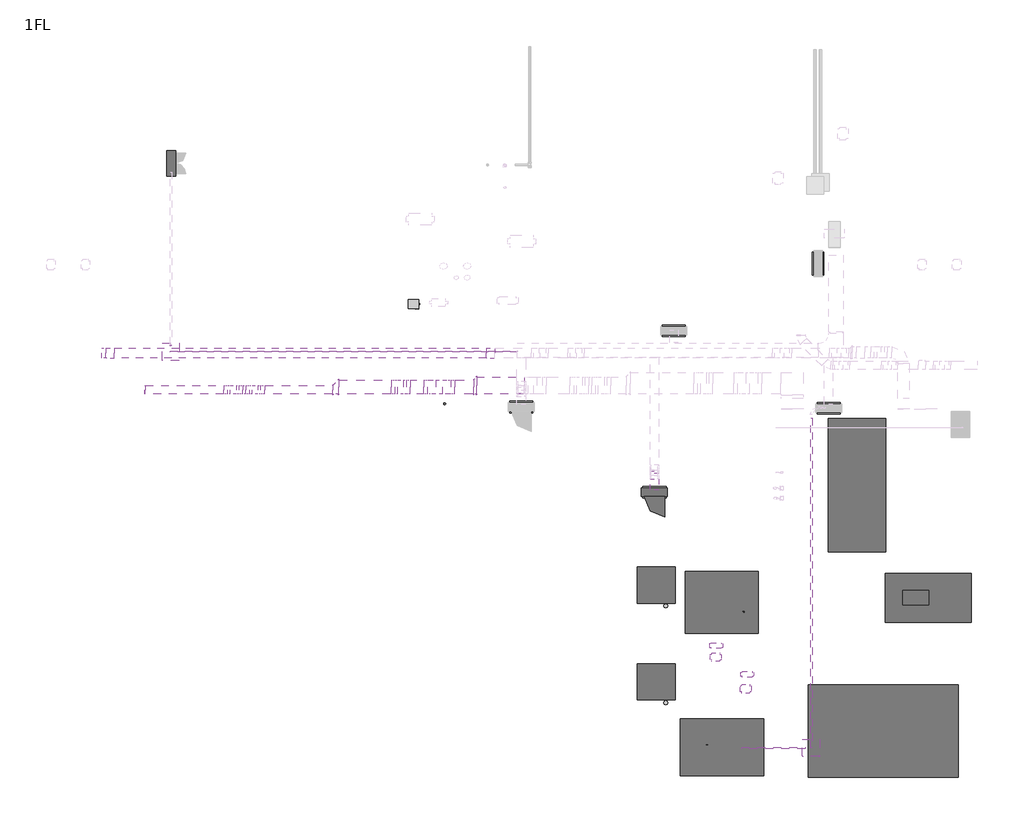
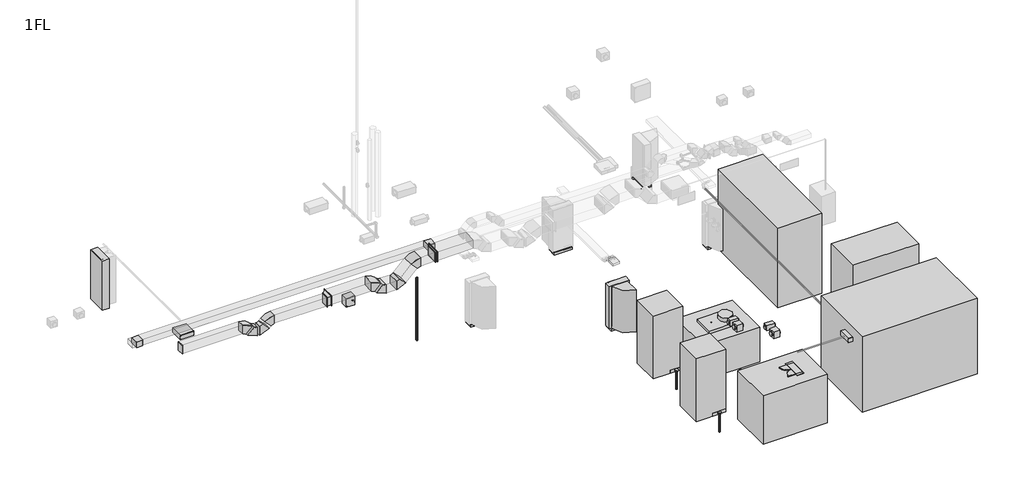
# One storey, part 1 of 3: 23 proxies, 13 duct fittings, 13 duct segments, 7 unitary equipment elements, 6 cable carrier segments, 4 pipe segments, 4 sanitary terminals, 2 electric distribution boards, 2 pipe fittings.
"""IFC4 building model written with IfcOpenShell, lengths in millimetres."""

from ifc_helpers import new_model, si_unit, point, frame, frame_2d, origin, origin_with_axes, place, context, project, spatial, polyline, circle_curve, trimmed, segment, composite_curve, outline, extrude, transform, mapped, element, save
from components import specialty_equipment_491e8242, specialty_equipment_af38feda, specialty_equipment_88b311e8, specialty_equipment_fa19b4a0, specialty_equipment_576017ca, specialty_equipment_9e616ede, specialty_equipment_b1b21cb5, specialty_equipment_777d3eea, specialty_equipment_a4dc3d81, specialty_equipment_71b71c24, specialty_equipment_7916e3ce, specialty_equipment_bdb20116, specialty_equipment_edc2f15a, electrical_fixtures_92a770d1, common_d19d567b, common_31d43736, common_1_0_w_334f4966, common_1_0_w_a1188d46, common_45_deg_ca4ca436, common_45_deg_28c74dc1, electric_distribution_board_1ec212f5, electric_distribution_board_7d68dc5e, common_ca5108ef, sanitary_terminal_b2eb0a7e, sanitary_terminal_007ee198, sanitary_terminal_f606fff4, sanitary_terminal_20l_5d2d8bf7, unitary_equipment_1_1_2_150m3_h_d594a744, unitary_equipment_2_300m3_h_3dfff21d, unitary_equipment_103_150l_min0_75kw18_5m_9d0cca60, unitary_equipment_7_1kw_d5a9fbea

model = new_model("IFC4")

# Units and contexts
model_context = context("Model", 3, world=origin())
ifc_project = project(units=[si_unit("LENGTHUNIT", "METRE", prefix="MILLI")], contexts=[model_context])

# Site, building, storey
site = spatial("IfcSite", under=ifc_project)
building = spatial("IfcBuilding", under=site)
storey = spatial("IfcBuildingStorey", under=building, Name="1FL", Elevation=0.0)

# Proxies
placement = place(None, origin())
specialty_equipment_shape = specialty_equipment_491e8242(model_context)
element("IfcBuildingElementProxy", 1, Name="機械基礎(電気) : 機械基礎(電気)", ObjectType="機械基礎(電気) : 機械基礎(電気)", at=placement, inside=storey, context=model_context, shape_type="MappedRepresentation", body=[
    mapped(specialty_equipment_shape, transform((26900.0, 18231.8647061, 0.0), x_axis=(0.0, 1.0, 0.0), y_axis=(-1.0, 0.0, 0.0), z_axis=(0.0, 0.0, 1.0))),
])
element("IfcBuildingElementProxy", 2, Name="機械基礎(電気) : 機械基礎(電気)", ObjectType="機械基礎(電気) : 機械基礎(電気)", at=placement, inside=storey, context=model_context, shape_type="MappedRepresentation", body=[
    mapped(specialty_equipment_shape, transform((16608.843656, 13256.501765, 0.0), x_axis=(1.0, 0.0, 0.0), y_axis=(0.0, 1.0, 0.0), z_axis=(0.0, 0.0, 1.0))),
])
element("IfcBuildingElementProxy", 3, Name="機械基礎(電気) : 機械基礎(電気)", ObjectType="機械基礎(電気) : 機械基礎(電気)", at=placement, inside=storey, context=model_context, shape_type="MappedRepresentation", body=[
    mapped(specialty_equipment_shape, transform((21893.33973, 15895.0, 0.0), x_axis=(-1.0, 0.0, 0.0), y_axis=(0.0, -1.0, 0.0), z_axis=(0.0, 0.0, 1.0))),
])
element("IfcBuildingElementProxy", 4, Name="機械基礎(電気) : 機械基礎(電気)", ObjectType="機械基礎(電気) : 機械基礎(電気)", at=placement, inside=storey, context=model_context, shape_type="MappedRepresentation", body=[
    mapped(specialty_equipment_shape, transform((27260.0, 13215.0, 0.0), x_axis=(1.0, 0.0, 0.0), y_axis=(0.0, 1.0, 0.0), z_axis=(0.0, 0.0, 1.0))),
])
element("IfcBuildingElementProxy", 5, Name="機械基礎(電気) : 機械基礎(電気)", ObjectType="機械基礎(電気) : 機械基礎(電気)", at=placement, inside=storey, context=model_context, shape_type="MappedRepresentation", body=[
    mapped(specialty_equipment_shape, transform((21223.8968144, 10294.6679092, 0.0), x_axis=(1.0, 0.0, 0.0), y_axis=(0.0, 1.0, 0.0), z_axis=(0.0, 0.0, 1.0))),
])
specialty_equipment_2_shape = specialty_equipment_af38feda(model_context)
element("IfcBuildingElementProxy", 6, Name="機械基礎(衛生) : 機械基礎(衛生)", ObjectType="機械基礎(衛生) : 機械基礎(衛生)", at=placement, inside=storey, context=model_context, shape_type="MappedRepresentation", body=[
    mapped(specialty_equipment_2_shape, transform((23763.4995659, 1184.2388571, 0.0), x_axis=(-1.0, 0.0, 0.0), y_axis=(0.0, -1.0, 0.0), z_axis=(0.0, 0.0, 1.0))),
])
specialty_equipment_3_shape = specialty_equipment_88b311e8(model_context)
element("IfcBuildingElementProxy", 7, Name="サービススペース(衛生) : サービススペース(衛生)", ObjectType="サービススペース(衛生) : サービススペース(衛生)", at=placement, inside=storey, context=model_context, shape_type="MappedRepresentation", body=[
    mapped(specialty_equipment_3_shape, transform((29155.0240303, 2020.0, 1800.0), x_axis=(0.0, 1.0, 0.0), y_axis=(-1.0, 0.0, 0.0), z_axis=(0.0, 0.0, 1.0))),
])
specialty_equipment_4_shape = specialty_equipment_fa19b4a0(model_context)
element("IfcBuildingElementProxy", 8, Name="サービススペース(衛生) : サービススペース(衛生)", ObjectType="サービススペース(衛生) : サービススペース(衛生)", at=placement, inside=storey, context=model_context, shape_type="MappedRepresentation", body=[
    mapped(specialty_equipment_4_shape, transform((23563.4995659, 1449.2388571, 1156.0), x_axis=(-1.0, 0.0, 0.0), y_axis=(0.0, -1.0, 0.0), z_axis=(0.0, 0.0, 1.0))),
])
specialty_equipment_5_shape = specialty_equipment_576017ca(model_context)
element("IfcBuildingElementProxy", 9, Name="機械基礎 : 機械基礎", ObjectType="機械基礎 : 機械基礎", at=placement, inside=storey, context=model_context, shape_type="MappedRepresentation", body=[
    mapped(specialty_equipment_5_shape, transform((28500.0, 10740.0, 0.0), x_axis=(0.0, -1.0, 0.0), y_axis=(1.0, 0.0, 0.0), z_axis=(0.0, 0.0, 1.0))),
])
specialty_equipment_6_shape = specialty_equipment_9e616ede(model_context)
element("IfcBuildingElementProxy", 10, Name="サービススペース : サービススペース", ObjectType="サービススペース : サービススペース", at=placement, inside=storey, context=model_context, shape_type="MappedRepresentation", body=[
    mapped(specialty_equipment_6_shape, transform((28250.0, 10540.0, 1901.0), x_axis=(0.0, -1.0, 0.0), y_axis=(1.0, 0.0, 0.0), z_axis=(0.0, 0.0, 1.0))),
])
specialty_equipment_7_shape = specialty_equipment_b1b21cb5(model_context)
element("IfcBuildingElementProxy", 11, Name="機械基礎 : 機械基礎", ObjectType="機械基礎 : 機械基礎", at=placement, inside=storey, context=model_context, shape_type="MappedRepresentation", body=[
    mapped(specialty_equipment_7_shape, transform((21660.0, 6902.5052239, 0.0), x_axis=(0.0, -1.0, 0.0), y_axis=(1.0, 0.0, 0.0), z_axis=(0.0, 0.0, 1.0))),
])
element("IfcBuildingElementProxy", 12, Name="機械基礎 : 機械基礎", ObjectType="機械基礎 : 機械基礎", at=placement, inside=storey, context=model_context, shape_type="MappedRepresentation", body=[
    mapped(specialty_equipment_7_shape, transform((21660.0, 3547.3052239, 0.0), x_axis=(0.0, -1.0, 0.0), y_axis=(1.0, 0.0, 0.0), z_axis=(0.0, 0.0, 1.0))),
])
specialty_equipment_8_shape = specialty_equipment_777d3eea(model_context)
element("IfcBuildingElementProxy", 13, Name="サービススペース : サービススペース", ObjectType="サービススペース : サービススペース", at=placement, inside=storey, context=model_context, shape_type="MappedRepresentation", body=[
    mapped(specialty_equipment_8_shape, transform((21285.0, 7077.5052239, 1500.0), x_axis=(0.0, -1.0, 0.0), y_axis=(1.0, 0.0, 0.0), z_axis=(0.0, 0.0, 1.0))),
])
element("IfcBuildingElementProxy", 14, Name="サービススペース : サービススペース", ObjectType="サービススペース : サービススペース", at=placement, inside=storey, context=model_context, shape_type="MappedRepresentation", body=[
    mapped(specialty_equipment_8_shape, transform((21285.0, 3722.3052239, 1500.0), x_axis=(0.0, -1.0, 0.0), y_axis=(1.0, 0.0, 0.0), z_axis=(0.0, 0.0, 1.0))),
])
specialty_equipment_9_shape = specialty_equipment_a4dc3d81(model_context)
element("IfcBuildingElementProxy", 15, Name="サービススペース : サービススペース(電気)", ObjectType="サービススペース : サービススペース(電気)", at=placement, inside=storey, context=model_context, shape_type="MappedRepresentation", body=[
    mapped(specialty_equipment_9_shape, transform((4475.0, 21705.7994846, 1175.0), x_axis=(0.0, 1.0, 0.0), y_axis=(-1.0, 0.0, 0.0), z_axis=(0.0, 0.0, 1.0))),
])
element("IfcBuildingElementProxy", 16, Name="サービススペース : サービススペース(電気)", ObjectType="サービススペース : サービススペース(電気)", at=placement, inside=storey, context=model_context, shape_type="MappedRepresentation", body=[
    mapped(specialty_equipment_9_shape, transform((24088.962752, 1426.2388571, 1175.0), x_axis=(0.0, -1.0, 0.0), y_axis=(1.0, 0.0, 0.0), z_axis=(0.0, 0.0, 1.0))),
])
element("IfcBuildingElementProxy", 17, Name="機械基礎 : 機械基礎(電気)", ObjectType="機械基礎 : 機械基礎(電気)", at=placement, inside=storey, context=model_context, shape_type="MappedRepresentation", body=[
    mapped(specialty_equipment_shape, transform((24088.962752, 1426.2388571, 0.0), x_axis=(0.0, -1.0, 0.0), y_axis=(1.0, 0.0, 0.0), z_axis=(0.0, 0.0, 1.0))),
])
specialty_equipment_10_shape = specialty_equipment_71b71c24(model_context)
element("IfcBuildingElementProxy", 18, Name="サービススペース : サービススペース", ObjectType="サービススペース : サービススペース", at=placement, inside=storey, context=model_context, shape_type="MappedRepresentation", body=[
    mapped(specialty_equipment_10_shape, transform((23547.6679829, 6475.0, 815.5), x_axis=(-1.0, 0.0, 0.0), y_axis=(0.0, -1.0, 0.0), z_axis=(0.0, 0.0, 1.0))),
])
specialty_equipment_11_shape = specialty_equipment_7916e3ce(model_context)
element("IfcBuildingElementProxy", 19, Name="機械基礎_下駄(衛生) : 機械基礎_下駄(衛生)", ObjectType="機械基礎_下駄(衛生) : 機械基礎_下駄(衛生)", at=placement, inside=storey, context=model_context, shape_type="MappedRepresentation", body=[
    mapped(specialty_equipment_11_shape, transform((30155.0240303, 2020.0, 0.0), x_axis=(0.0, 1.0, 0.0), y_axis=(-1.0, 0.0, 0.0), z_axis=(0.0, 0.0, 1.0))),
])
specialty_equipment_12_shape = specialty_equipment_bdb20116(model_context)
element("IfcBuildingElementProxy", 20, Name="サービススペース(衛生) : サービススペース(衛生)", ObjectType="サービススペース(衛生) : サービススペース(衛生)", at=placement, inside=storey, context=model_context, shape_type="MappedRepresentation", body=[
    mapped(specialty_equipment_12_shape, transform((30720.0, 6635.0, 1400.0), x_axis=(1.0, 0.0, 0.0), y_axis=(0.0, 1.0, 0.0), z_axis=(0.0, 0.0, 1.0))),
])
specialty_equipment_13_shape = specialty_equipment_edc2f15a(model_context)
element("IfcBuildingElementProxy", 21, Name="機械基礎(衛生) : 機械基礎(衛生)", ObjectType="機械基礎(衛生) : 機械基礎(衛生)", at=placement, inside=storey, context=model_context, shape_type="MappedRepresentation", body=[
    mapped(specialty_equipment_13_shape, transform((30330.0, 6890.0, 0.0), x_axis=(1.0, 0.0, 0.0), y_axis=(0.0, 1.0, 0.0), z_axis=(0.0, 0.0, 1.0))),
])
electrical_fixtures_shape = electrical_fixtures_92a770d1(model_context)
element("IfcBuildingElementProxy", 22, Name="20206_プルボックス_大_強電用 : 幹線設備", ObjectType="20206_プルボックス_大_強電用 : 幹線設備", at=placement, inside=storey, context=model_context, shape_type="MappedRepresentation", body=[
    mapped(electrical_fixtures_shape, transform((26645.2150478, 1431.9770061, 2950.0), x_axis=(1.0, 0.0, 0.0), y_axis=(0.0, 1.0, 0.0), z_axis=(0.0, 0.0, 1.0))),
])
element("IfcBuildingElementProxy", 23, Name="20206_プルボックス_大_強電用 : 幹線設備", ObjectType="20206_プルボックス_大_強電用 : 幹線設備", at=placement, inside=storey, context=model_context, shape_type="MappedRepresentation", body=[
    mapped(electrical_fixtures_shape, transform((4455.8700993, 15168.0714841, 2530.0), x_axis=(1.0, 0.0, 0.0), y_axis=(0.0, 1.0, 0.0), z_axis=(0.0, 0.0, 1.0))),
])

# Cable carrier segments
element("IfcCableCarrierSegment", 24, ObjectType="03 強電_低圧", at=placement, inside=storey, context=model_context, shape_type="SweptSolid", body=[
    extrude(outline(polyline([(-150.0, 108.113883), (-150.0, 208.113883), (150.0, 208.113883), (150.0, 108.113883), (-150.0, 108.113883)])), frame((21219.8202836, 10872.3105534, 2677.3110529), z_axis=(0.0, -0.5939062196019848, 0.8045342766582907), x_axis=(1.0, 0.0, 0.0)), (0.0, 0.0, 1.0), 9.4070041),
])
element("IfcCableCarrierSegment", 25, ObjectType="03 強電_低圧", at=placement, inside=storey, context=model_context, shape_type="SweptSolid", body=[
    extrude(outline(polyline([(0.0, -300.0), (0.0, 0.0), (383.3022574, 0.0), (383.3022574, -300.0), (0.0, -300.0)])), frame((21369.8202836, 10753.7844174, 2850.0), z_axis=(0.0, -1.7402614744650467e-12, 1.0), x_axis=(0.0, -1.0, -1.7402614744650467e-12)), (0.0, 0.0, 1.0), 100.0),
])
element("IfcCableCarrierSegment", 26, ObjectType="021_ねじなし電線管_E_強電", at=placement, inside=storey, context=model_context, shape_type="SweptSolid", body=[
    extrude(outline(composite_curve([segment(trimmed(circle_curve(frame_2d((3060.0, 26660.0)), 25.4), [point((3060.0, 26634.6))], [point((3034.6, 26660.0))], False, "CARTESIAN"), True, "CONTINUOUS"), segment(trimmed(circle_curve(frame_2d((3060.0, 26660.0)), 25.4), [point((3034.6, 26660.0))], [point((3060.0, 26685.4))], False, "CARTESIAN"), True, "CONTINUOUS"), segment(trimmed(circle_curve(frame_2d((3060.0, 26660.0)), 25.4), [point((3060.0, 26685.4))], [point((3085.4, 26660.0))], False, "CARTESIAN"), True, "CONTINUOUS"), segment(trimmed(circle_curve(frame_2d((3060.0, 26660.0)), 25.4), [point((3085.4, 26660.0))], [point((3060.0, 26634.6))], False, "CARTESIAN"), True, "CONTINUOUS")], self_intersect=False)), frame((0.0, 1433.905522, 0.0), z_axis=(0.0, 1.0, 0.0), x_axis=(0.0, 0.0, 1.0)), (0.0, 0.0, 1.0), 11436.8326414),
])
element("IfcCableCarrierSegment", 27, ObjectType="021_ねじなし電線管_E_強電", at=placement, inside=storey, context=model_context, shape_type="SweptSolid", body=[
    extrude(outline(composite_curve([segment(trimmed(circle_curve(frame_2d((1433.905522, 3060.0)), 25.4), [point((1408.505522, 3060.0))], [point((1433.905522, 3085.4))], False, "CARTESIAN"), True, "CONTINUOUS"), segment(trimmed(circle_curve(frame_2d((1433.905522, 3060.0)), 25.4), [point((1433.905522, 3085.4))], [point((1459.305522, 3060.0))], False, "CARTESIAN"), True, "CONTINUOUS"), segment(trimmed(circle_curve(frame_2d((1433.905522, 3060.0)), 25.4), [point((1459.305522, 3060.0))], [point((1433.905522, 3034.6))], False, "CARTESIAN"), True, "CONTINUOUS"), segment(trimmed(circle_curve(frame_2d((1433.905522, 3060.0)), 25.4), [point((1433.905522, 3034.6))], [point((1408.505522, 3060.0))], False, "CARTESIAN"), True, "CONTINUOUS")], self_intersect=False)), frame((24242.2514322, 0.0, 0.0), z_axis=(1.0, 0.0, 0.0), x_axis=(0.0, 1.0, 0.0)), (0.0, 0.0, 1.0), 2200.0),
])
element("IfcCableCarrierSegment", 28, ObjectType="021_ねじなし電線管_E_強電", at=placement, inside=storey, context=model_context, shape_type="SweptSolid", body=[
    extrude(outline(composite_curve([segment(trimmed(circle_curve(frame_2d((15180.0, 2650.0)), 25.4), [point((15205.4, 2650.0))], [point((15180.0, 2624.6))], False, "CARTESIAN"), True, "CONTINUOUS"), segment(trimmed(circle_curve(frame_2d((15180.0, 2650.0)), 25.4), [point((15180.0, 2624.6))], [point((15154.6, 2650.0))], False, "CARTESIAN"), True, "CONTINUOUS"), segment(trimmed(circle_curve(frame_2d((15180.0, 2650.0)), 25.4), [point((15154.6, 2650.0))], [point((15180.0, 2675.4))], False, "CARTESIAN"), True, "CONTINUOUS"), segment(trimmed(circle_curve(frame_2d((15180.0, 2650.0)), 25.4), [point((15180.0, 2675.4))], [point((15205.4, 2650.0))], False, "CARTESIAN"), True, "CONTINUOUS")], self_intersect=False)), frame((4443.7313084, 0.0, 0.0), z_axis=(1.0, 0.0, 0.0), x_axis=(0.0, 1.0, 0.0)), (0.0, 0.0, 1.0), 12026.0889751),
])
element("IfcCableCarrierSegment", 29, ObjectType="021_ねじなし電線管_E_強電", at=placement, inside=storey, context=model_context, shape_type="SweptSolid", body=[
    extrude(outline(composite_curve([segment(trimmed(circle_curve(frame_2d((4462.2728341, 15395.0)), 25.4), [point((4487.6728341, 15395.0))], [point((4462.2728341, 15369.6))], False, "CARTESIAN"), True, "CONTINUOUS"), segment(trimmed(circle_curve(frame_2d((4462.2728341, 15395.0)), 25.4), [point((4462.2728341, 15369.6))], [point((4436.8728341, 15395.0))], False, "CARTESIAN"), True, "CONTINUOUS"), segment(trimmed(circle_curve(frame_2d((4462.2728341, 15395.0)), 25.4), [point((4436.8728341, 15395.0))], [point((4462.2728341, 15420.4))], False, "CARTESIAN"), True, "CONTINUOUS"), segment(trimmed(circle_curve(frame_2d((4462.2728341, 15395.0)), 25.4), [point((4462.2728341, 15420.4))], [point((4487.6728341, 15395.0))], False, "CARTESIAN"), True, "CONTINUOUS")], self_intersect=False)), frame((0.0, 0.0, 2620.0), z_axis=(0.0, 0.0, 1.0), x_axis=(1.0, 0.0, 0.0)), (0.0, 0.0, 1.0), 36.2760938),
])

# Duct fittings
common_shape = common_d19d567b(model_context)
element("IfcDuctFitting", 30, ObjectType="081_角型エンドキャップ : Common", at=placement, inside=storey, context=model_context, shape_type="MappedRepresentation", body=[
    mapped(common_shape, transform((3580.0252532, 13850.0, 2975.0), x_axis=(-1.0, 0.0, 0.0), y_axis=(0.0, -1.0, 0.0), z_axis=(0.0, 0.0, 1.0))),
])
common_2_shape = common_31d43736(model_context)
element("IfcDuctFitting", 31, ObjectType="022_角形片側分岐 : Common", at=placement, inside=storey, context=model_context, shape_type="MappedRepresentation", body=[
    mapped(common_2_shape, transform((15534.375, 15130.0, 2925.0), x_axis=(1.0, 0.0, 0.0), y_axis=(0.0, 1.0, 0.0), z_axis=(0.0, 0.0, 1.0))),
])
element("IfcDuctFitting", 32, ObjectType="022_角形片側分岐 : Common", at=placement, inside=storey, context=model_context, shape_type="MappedRepresentation", body=[
    mapped(common_2_shape, transform((2354.375, 15130.0, 2925.0), x_axis=(1.0, 0.0, 0.0), y_axis=(0.0, 1.0, 0.0), z_axis=(0.0, 0.0, 1.0))),
])
common_1_0_w_shape = common_1_0_w_334f4966(model_context)
element("IfcDuctFitting", 33, ObjectType="011_角型エルボ - 半径 : Common 1.0 W", at=placement, inside=storey, context=model_context, shape_type="MappedRepresentation", body=[
    mapped(common_1_0_w_shape, transform((7215.6854249, 13850.0, 2650.0), x_axis=(1.0, 0.0, 0.0), y_axis=(0.0, 0.0, 1.0), z_axis=(0.0, -1.0, 0.0))),
])
element("IfcDuctFitting", 34, ObjectType="011_角型エルボ - 半径 : Common 1.0 W", at=placement, inside=storey, context=model_context, shape_type="MappedRepresentation", body=[
    mapped(common_1_0_w_shape, transform((6784.3145751, 13850.0, 2650.0), x_axis=(-1.0, 0.0, 0.0), y_axis=(0.0, 0.0, 1.0), z_axis=(0.0, 1.0, 0.0))),
])
element("IfcDuctFitting", 35, ObjectType="011_角型エルボ - 半径 : Common 1.0 W", at=placement, inside=storey, context=model_context, shape_type="MappedRepresentation", body=[
    mapped(common_1_0_w_shape, transform((6459.3145751, 13850.0, 2975.0), x_axis=(-0.7071067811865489, 0.0, 0.7071067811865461), y_axis=(-0.7071067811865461, 0.0, -0.7071067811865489), z_axis=(0.0, -1.0, 0.0))),
])
element("IfcDuctFitting", 36, ObjectType="011_角型エルボ - 半径 : Common 1.0 W", at=placement, inside=storey, context=model_context, shape_type="MappedRepresentation", body=[
    mapped(common_1_0_w_shape, transform((7540.6854249, 13850.0, 2975.0), x_axis=(0.7071067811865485, 0.0, 0.7071067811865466), y_axis=(0.7071067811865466, 0.0, -0.7071067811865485), z_axis=(0.0, 1.0, 0.0))),
])
common_1_0_w_2_shape = common_1_0_w_a1188d46(model_context)
element("IfcDuctFitting", 37, ObjectType="011_角型エルボ - 半径 : Common 1.0 W", at=placement, inside=storey, context=model_context, shape_type="MappedRepresentation", body=[
    mapped(common_1_0_w_2_shape, transform((12261.7792654, 13950.0, 2975.0), x_axis=(1.0, 0.0, 0.0), y_axis=(0.0, 0.0, -1.0), z_axis=(0.0, 1.0, 0.0))),
])
element("IfcDuctFitting", 38, ObjectType="011_角型エルボ - 半径 : Common 1.0 W", at=placement, inside=storey, context=model_context, shape_type="MappedRepresentation", body=[
    mapped(common_1_0_w_2_shape, transform((12586.7792654, 13950.0, 2650.0), x_axis=(0.7071067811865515, 0.0, -0.7071067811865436), y_axis=(0.7071067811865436, 0.0, 0.7071067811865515), z_axis=(0.0, -1.0, 0.0))),
])
element("IfcDuctFitting", 39, ObjectType="011_角型エルボ - 半径 : Common 1.0 W", at=placement, inside=storey, context=model_context, shape_type="MappedRepresentation", body=[
    mapped(common_1_0_w_2_shape, transform((13390.918361, 13950.0, 2650.0), x_axis=(-0.7071067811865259, 0.0, -0.7071067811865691), y_axis=(-0.7071067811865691, 0.0, 0.7071067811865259), z_axis=(0.0, 1.0, 0.0))),
])
element("IfcDuctFitting", 40, ObjectType="011_角型エルボ - 半径 : Common 1.0 W", at=placement, inside=storey, context=model_context, shape_type="MappedRepresentation", body=[
    mapped(common_1_0_w_2_shape, transform((14140.918361, 13950.0, 3400.0), x_axis=(0.707106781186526, 0.0, 0.7071067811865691), y_axis=(0.7071067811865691, 0.0, -0.707106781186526), z_axis=(0.0, 1.0, 0.0))),
])
common_45_deg_shape = common_45_deg_ca4ca436(model_context)
element("IfcDuctFitting", 41, ObjectType="041_角型置換 - フランジ - 角度 : Common 45 deg", at=placement, inside=storey, context=model_context, shape_type="MappedRepresentation", body=[
    mapped(common_45_deg_shape, transform((10079.6849492, 13850.0, 2975.0), x_axis=(1.0, 0.0, 0.0), y_axis=(0.0, 1.0, 0.0), z_axis=(0.0, 0.0, 1.0))),
])
common_45_deg_2_shape = common_45_deg_28c74dc1(model_context)
element("IfcDuctFitting", 42, ObjectType="041_角型置換 - フランジ - 角度 : Common 45 deg", at=placement, inside=storey, context=model_context, shape_type="MappedRepresentation", body=[
    mapped(common_45_deg_2_shape, transform((14955.6980515, 13950.0, 3400.0), x_axis=(1.0, 0.0, 0.0), y_axis=(0.0, 1.0, 0.0), z_axis=(0.0, 0.0, 1.0))),
])

# Duct segments
element("IfcDuctSegment", 43, ObjectType="00_角タップ", at=placement, inside=storey, context=model_context, shape_type="SweptSolid", body=[
    extrude(outline(polyline([(12096.0938404, 14200.0), (12096.0938404, 13700.0), (10279.6849492, 13700.0), (10279.6849492, 14200.0), (12096.0938404, 14200.0)])), frame((0.0, 0.0, 2775.0), z_axis=(0.0, 0.0, 1.0), x_axis=(1.0, 0.0, 0.0)), (0.0, 0.0, 1.0), 400.0),
])
element("IfcDuctSegment", 44, ObjectType="00_角タップ", at=placement, inside=storey, context=model_context, shape_type="SweptSolid", body=[
    extrude(outline(polyline([(7706.3708499, 13700.0), (7706.3708499, 14000.0), (10079.6849492, 14000.0), (10079.6849492, 13700.0), (7706.3708499, 13700.0)])), frame((0.0, 0.0, 2775.0), z_axis=(0.0, 0.0, 1.0), x_axis=(1.0, 0.0, 0.0)), (0.0, 0.0, 1.0), 400.0),
])
element("IfcDuctSegment", 45, ObjectType="00_角タップ", at=placement, inside=storey, context=model_context, shape_type="SweptSolid", body=[
    extrude(outline(polyline([(15055.6980515, 13700.0), (15055.6980515, 14300.0), (16711.31063, 14300.0), (16711.31063, 13700.0), (15055.6980515, 13700.0)])), frame((0.0, 0.0, 3200.0), z_axis=(0.0, 0.0, 1.0), x_axis=(1.0, 0.0, 0.0)), (0.0, 0.0, 1.0), 400.0),
])
element("IfcDuctSegment", 46, ObjectType="00_角タップ", at=placement, inside=storey, context=model_context, shape_type="SweptSolid", body=[
    extrude(outline(polyline([(6950.0, 13700.0), (6950.0, 14000.0), (7050.0, 14000.0), (7050.0, 13700.0), (6950.0, 13700.0)])), frame((0.0, 0.0, 2450.0), z_axis=(0.0, 0.0, 1.0), x_axis=(1.0, 0.0, 0.0)), (0.0, 0.0, 1.0), 400.0),
])
element("IfcDuctSegment", 47, ObjectType="00_角タップ", at=placement, inside=storey, context=model_context, shape_type="SweptSolid", body=[
    extrude(outline(polyline([(6293.6291501, 14000.0), (6293.6291501, 13700.0), (3580.0252532, 13700.0), (3580.0252532, 14000.0), (6293.6291501, 14000.0)])), frame((0.0, 0.0, 2775.0), z_axis=(0.0, 0.0, 1.0), x_axis=(1.0, 0.0, 0.0)), (0.0, 0.0, 1.0), 400.0),
])
element("IfcDuctSegment", 48, ObjectType="00_角タップ", at=placement, inside=storey, context=model_context, shape_type="SweptSolid", body=[
    extrude(outline(polyline([(12752.4646903, 13700.0), (12752.4646903, 14200.0), (13225.232936, 14200.0), (13225.232936, 13700.0), (12752.4646903, 13700.0)])), frame((0.0, 0.0, 2450.0), z_axis=(0.0, 0.0, 1.0), x_axis=(1.0, 0.0, 0.0)), (0.0, 0.0, 1.0), 400.0),
])
element("IfcDuctSegment", 49, ObjectType="00_角タップ", at=placement, inside=storey, context=model_context, shape_type="SweptSolid", body=[
    extrude(outline(polyline([(0.0, -500.0), (0.0, 0.0), (128.2485579, 0.0), (128.2485579, -500.0), (0.0, -500.0)])), frame((12237.5151966, 14200.0, 2716.4213562), z_axis=(0.7071067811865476, 0.0, 0.7071067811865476), x_axis=(0.7071067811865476, 0.0, -0.7071067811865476)), (0.0, 0.0, 1.0), 400.0),
])
element("IfcDuctSegment", 50, ObjectType="00_角タップ", at=placement, inside=storey, context=model_context, shape_type="SweptSolid", body=[
    extrude(outline(polyline([(0.0, -300.0), (0.0, 0.0), (128.2485579, 0.0), (128.2485579, -300.0), (0.0, -300.0)])), frame((6435.0505063, 14000.0, 2716.4213562), z_axis=(0.707106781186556, 0.0, 0.7071067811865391), x_axis=(0.7071067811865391, 0.0, -0.707106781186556)), (0.0, 0.0, 1.0), 400.0),
])
element("IfcDuctSegment", 51, ObjectType="00_角タップ", at=placement, inside=storey, context=model_context, shape_type="SweptSolid", body=[
    extrude(outline(polyline([(199.9999999, -400.0), (-200.0000001, -400.0), (-200.0000001, -100.0), (199.9999999, -100.0), (199.9999999, -400.0)])), frame((7332.8427125, 14100.0, 2767.1572875), z_axis=(0.7071067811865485, 0.0, 0.7071067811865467), x_axis=(0.7071067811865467, 0.0, -0.7071067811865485)), (0.0, 0.0, 1.0), 128.2485579),
])
element("IfcDuctSegment", 52, ObjectType="00_角タップ", at=placement, inside=storey, context=model_context, shape_type="SweptSolid", body=[
    extrude(outline(polyline([(14306.6037859, 13700.0), (14306.6037859, 14200.0), (14955.6980515, 14200.0), (14955.6980515, 13700.0), (14306.6037859, 13700.0)])), frame((0.0, 0.0, 3200.0), z_axis=(0.0, 0.0, 1.0), x_axis=(1.0, 0.0, 0.0)), (0.0, 0.0, 1.0), 400.0),
])
element("IfcDuctSegment", 53, ObjectType="00_角タップ", at=placement, inside=storey, context=model_context, shape_type="SweptSolid", body=[
    extrude(outline(polyline([(199.9999999, 570.1562119), (199.9999999, 70.1562119), (-200.0, 70.1562119), (-200.0, 570.1562119), (199.9999999, 570.1562119)])), frame((13508.0756485, 13629.8437881, 2767.1572875), z_axis=(0.7071067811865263, 0.0, 0.7071067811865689), x_axis=(0.7071067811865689, 0.0, -0.7071067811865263)), (0.0, 0.0, 1.0), 729.2893219),
])
element("IfcDuctSegment", 54, ObjectType="00_角ティー", at=placement, inside=storey, context=model_context, shape_type="SweptSolid", body=[
    extrude(outline(polyline([(2204.375, 15305.0), (2204.375, 14955.0), (2064.375, 14955.0), (2064.375, 15305.0), (2204.375, 15305.0)])), frame((0.0, 0.0, 2800.0), z_axis=(0.0, 0.0, 1.0), x_axis=(1.0, 0.0, 0.0)), (0.0, 0.0, 1.0), 250.0),
])
element("IfcDuctSegment", 55, ObjectType="00_角ティー", at=placement, inside=storey, context=model_context, shape_type="SweptSolid", body=[
    extrude(outline(polyline([(15384.375, 15305.0), (15384.375, 14955.0), (2504.375, 14955.0), (2504.375, 15305.0), (15384.375, 15305.0)])), frame((0.0, 0.0, 2800.0), z_axis=(0.0, 0.0, 1.0), x_axis=(1.0, 0.0, 0.0)), (0.0, 0.0, 1.0), 250.0),
])

# Electric distribution boards
electric_distribution_board_shape = electric_distribution_board_1ec212f5(model_context)
element("IfcElectricDistributionBoard", 56, ObjectType="43300_衛生設備盤 : 消火ポンプ制御盤", at=placement, inside=storey, context=model_context, shape_type="MappedRepresentation", body=[
    mapped(electric_distribution_board_shape, transform((24288.962752, 1426.2388571, 0.0), x_axis=(0.0, -1.0, 0.0), y_axis=(1.0, 0.0, 0.0), z_axis=(0.0, 0.0, 1.0))),
])
electric_distribution_board_2_shape = electric_distribution_board_7d68dc5e(model_context)
element("IfcElectricDistributionBoard", 57, ObjectType="21000_OA盤 : 右扉", at=placement, inside=storey, context=model_context, shape_type="MappedRepresentation", body=[
    mapped(electric_distribution_board_2_shape, transform((21223.8968144, 10494.6679092, 0.0), x_axis=(1.0, 0.0, 0.0), y_axis=(0.0, 1.0, 0.0), z_axis=(0.0, 0.0, 1.0))),
])

# Pipe fittings
common_3_shape = common_ca5108ef(model_context)
element("IfcPipeFitting", 58, ObjectType="041_レジューサ : Common", at=placement, inside=storey, context=model_context, shape_type="MappedRepresentation", body=[
    mapped(common_3_shape, transform((21616.0960953, 6357.3236579, 150.0), x_axis=(0.0, 0.0, -1.0), y_axis=(0.0, 1.0, 0.0), z_axis=(1.0, 0.0, 0.0))),
])
element("IfcPipeFitting", 59, ObjectType="041_レジューサ : Common", at=placement, inside=storey, context=model_context, shape_type="MappedRepresentation", body=[
    mapped(common_3_shape, transform((21616.0960953, 3002.1236579, 150.0), x_axis=(0.0, 0.0, -1.0), y_axis=(0.0, 1.0, 0.0), z_axis=(1.0, 0.0, 0.0))),
])

# Pipe segments
element("IfcPipeSegment", 60, ObjectType="00_排水", at=placement, inside=storey, context=model_context, shape_type="SweptSolid", body=[
    extrude(outline(composite_curve([segment(trimmed(circle_curve(frame_2d((21616.0960953, 6357.3236579)), 30.25), [point((21646.3460953, 6357.3236579))], [point((21616.0960953, 6327.0736579))], False, "CARTESIAN"), True, "CONTINUOUS"), segment(trimmed(circle_curve(frame_2d((21616.0960953, 6357.3236579)), 30.25), [point((21616.0960953, 6327.0736579))], [point((21585.8460953, 6357.3236579))], False, "CARTESIAN"), True, "CONTINUOUS"), segment(trimmed(circle_curve(frame_2d((21616.0960953, 6357.3236579)), 30.25), [point((21585.8460953, 6357.3236579))], [point((21616.0960953, 6387.5736579))], False, "CARTESIAN"), True, "CONTINUOUS"), segment(trimmed(circle_curve(frame_2d((21616.0960953, 6357.3236579)), 30.25), [point((21616.0960953, 6387.5736579))], [point((21646.3460953, 6357.3236579))], False, "CARTESIAN"), True, "CONTINUOUS")], self_intersect=False)), frame((0.0, 0.0, -765.0), z_axis=(0.0, 0.0, 1.0), x_axis=(1.0, 0.0, 0.0)), (0.0, 0.0, 1.0), 830.0),
])
element("IfcPipeSegment", 61, ObjectType="00_排水", at=placement, inside=storey, context=model_context, shape_type="SweptSolid", body=[
    extrude(outline(composite_curve([segment(trimmed(circle_curve(frame_2d((21616.0960953, 3002.1236579)), 30.25), [point((21646.3460953, 3002.1236579))], [point((21616.0960953, 2971.8736579))], False, "CARTESIAN"), True, "CONTINUOUS"), segment(trimmed(circle_curve(frame_2d((21616.0960953, 3002.1236579)), 30.25), [point((21616.0960953, 2971.8736579))], [point((21585.8460953, 3002.1236579))], False, "CARTESIAN"), True, "CONTINUOUS"), segment(trimmed(circle_curve(frame_2d((21616.0960953, 3002.1236579)), 30.25), [point((21585.8460953, 3002.1236579))], [point((21616.0960953, 3032.3736579))], False, "CARTESIAN"), True, "CONTINUOUS"), segment(trimmed(circle_curve(frame_2d((21616.0960953, 3002.1236579)), 30.25), [point((21616.0960953, 3032.3736579))], [point((21646.3460953, 3002.1236579))], False, "CARTESIAN"), True, "CONTINUOUS")], self_intersect=False)), frame((0.0, 0.0, -765.0), z_axis=(0.0, 0.0, 1.0), x_axis=(1.0, 0.0, 0.0)), (0.0, 0.0, 1.0), 830.0),
])
element("IfcPipeSegment", 62, ObjectType="00_排水", at=placement, inside=storey, context=model_context, shape_type="SweptSolid", body=[
    extrude(outline(composite_curve([segment(trimmed(circle_curve(frame_2d((24362.6679829, 6147.5)), 30.25), [point((24392.9179829, 6147.5))], [point((24362.6679829, 6117.25))], False, "CARTESIAN"), True, "CONTINUOUS"), segment(trimmed(circle_curve(frame_2d((24362.6679829, 6147.5)), 30.25), [point((24362.6679829, 6117.25))], [point((24332.4179829, 6147.5))], False, "CARTESIAN"), True, "CONTINUOUS"), segment(trimmed(circle_curve(frame_2d((24362.6679829, 6147.5)), 30.25), [point((24332.4179829, 6147.5))], [point((24362.6679829, 6177.75))], False, "CARTESIAN"), True, "CONTINUOUS"), segment(trimmed(circle_curve(frame_2d((24362.6679829, 6147.5)), 30.25), [point((24362.6679829, 6177.75))], [point((24392.9179829, 6147.5))], False, "CARTESIAN"), True, "CONTINUOUS")], self_intersect=False)), frame((0.0, 0.0, -915.0), z_axis=(0.0, 0.0, 1.0), x_axis=(1.0, 0.0, 0.0)), (0.0, 0.0, 1.0), 915.0),
])
element("IfcPipeSegment", 63, ObjectType="00_供給", at=placement, inside=storey, context=model_context, shape_type="SweptSolid", body=[
    extrude(outline(composite_curve([segment(trimmed(circle_curve(frame_2d((13950.0, 13362.0)), 38.15), [point((13911.85, 13362.0))], [point((13950.0, 13400.15))], False, "CARTESIAN"), True, "CONTINUOUS"), segment(trimmed(circle_curve(frame_2d((13950.0, 13362.0)), 38.15), [point((13950.0, 13400.15))], [point((13988.15, 13362.0))], False, "CARTESIAN"), True, "CONTINUOUS"), segment(trimmed(circle_curve(frame_2d((13950.0, 13362.0)), 38.15), [point((13988.15, 13362.0))], [point((13950.0, 13323.85))], False, "CARTESIAN"), True, "CONTINUOUS"), segment(trimmed(circle_curve(frame_2d((13950.0, 13362.0)), 38.15), [point((13950.0, 13323.85))], [point((13911.85, 13362.0))], False, "CARTESIAN"), True, "CONTINUOUS")], self_intersect=False)), origin_with_axes(), (0.0, 0.0, 1.0), 2973.0),
])

# Sanitary terminals
sanitary_terminal_shape = sanitary_terminal_b2eb0a7e(model_context)
element("IfcSanitaryTerminal", 64, ObjectType="02080_PFU_消火ポンプユニット_単段 : 65φ", at=placement, inside=storey, context=model_context, shape_type="MappedRepresentation", body=[
    mapped(sanitary_terminal_shape, transform((23248.4995659, 1349.2388571, 0.0), x_axis=(-1.0, 0.0, 0.0), y_axis=(0.0, -1.0, 0.0), z_axis=(0.0, 0.0, 1.0))),
])
sanitary_terminal_2_shape = sanitary_terminal_007ee198(model_context)
element("IfcSanitaryTerminal", 65, ObjectType="02040_PU_増圧給水ポンプユニット_立形 : 50φ", at=placement, inside=storey, context=model_context, shape_type="MappedRepresentation", body=[
    mapped(sanitary_terminal_2_shape, transform((30280.0, 6640.0, 0.0), x_axis=(1.0, 0.0, 0.0), y_axis=(0.0, 1.0, 0.0), z_axis=(0.0, 0.0, 1.0))),
])
sanitary_terminal_3_shape = sanitary_terminal_f606fff4(model_context)
element("IfcSanitaryTerminal", 66, ObjectType="04020_TW_水槽 : 上水_受水槽", at=placement, inside=storey, context=model_context, shape_type="MappedRepresentation", body=[
    mapped(sanitary_terminal_3_shape, transform((30155.0240303, 2020.0, 0.0), x_axis=(0.0, 1.0, 0.0), y_axis=(-1.0, 0.0, 0.0), z_axis=(0.0, 0.0, 1.0))),
])
sanitary_terminal_20l_shape = sanitary_terminal_20l_5d2d8bf7(model_context)
element("IfcSanitaryTerminal", 67, ObjectType="03080_WHE_貯湯式電気温水器 : 20L", at=placement, inside=storey, context=model_context, shape_type="MappedRepresentation", body=[
    mapped(sanitary_terminal_20l_shape, transform((12680.0, 16830.9435314, 0.0), x_axis=(0.0, 1.0, 0.0), y_axis=(-1.0, 0.0, 0.0), z_axis=(0.0, 0.0, 1.0))),
])

# Unitary equipment
unitary_equipment_1_1_2_150m3_h_shape = unitary_equipment_1_1_2_150m3_h_d594a744(model_context)
element("IfcUnitaryEquipment", 68, ObjectType="11021_FAN_斜流送風機 : #1 1/2_150m3/h", at=placement, inside=storey, context=model_context, shape_type="MappedRepresentation", body=[
    mapped(unitary_equipment_1_1_2_150m3_h_shape, transform((23360.0, 4981.0963612, 2700.0), x_axis=(1.0, 0.0, 0.0), y_axis=(0.0, 1.0, 0.0), z_axis=(0.0, 0.0, 1.0))),
])
element("IfcUnitaryEquipment", 69, ObjectType="11021_FAN_斜流送風機 : #1 1/2_150m3/h", at=placement, inside=storey, context=model_context, shape_type="MappedRepresentation", body=[
    mapped(unitary_equipment_1_1_2_150m3_h_shape, transform((24435.0, 3981.0963612, 2700.0), x_axis=(1.0, 0.0, 0.0), y_axis=(0.0, 1.0, 0.0), z_axis=(0.0, 0.0, 1.0))),
])
unitary_equipment_2_300m3_h_shape = unitary_equipment_2_300m3_h_3dfff21d(model_context)
element("IfcUnitaryEquipment", 70, ObjectType="11021_FAN_軸流送風機 : #2_300m3/h", at=placement, inside=storey, context=model_context, shape_type="MappedRepresentation", body=[
    mapped(unitary_equipment_2_300m3_h_shape, transform((23354.5, 4581.0963612, 2700.0), x_axis=(1.0, 0.0, 0.0), y_axis=(0.0, 1.0, 0.0), z_axis=(0.0, 0.0, 1.0))),
])
element("IfcUnitaryEquipment", 71, ObjectType="11021_FAN_軸流送風機 : #2_300m3/h", at=placement, inside=storey, context=model_context, shape_type="MappedRepresentation", body=[
    mapped(unitary_equipment_2_300m3_h_shape, transform((24384.0, 3481.0963612, 2700.0), x_axis=(1.0, 0.0, 0.0), y_axis=(0.0, 1.0, 0.0), z_axis=(0.0, 0.0, 1.0))),
])
unitary_equipment_103_150l_min0_75kw18_5m_shape = unitary_equipment_103_150l_min0_75kw18_5m_9d0cca60(model_context)
element("IfcUnitaryEquipment", 72, ObjectType="02030_受水槽一体型ポンプユニット : 103_150L/min0.75kW18.5m", at=placement, inside=storey, context=model_context, shape_type="MappedRepresentation", body=[
    mapped(unitary_equipment_103_150l_min0_75kw18_5m_shape, transform((23547.6679829, 6475.0, 0.0), x_axis=(-1.0, 0.0, 0.0), y_axis=(0.0, -1.0, 0.0), z_axis=(0.0, 0.0, 1.0))),
])
unitary_equipment_7_1kw_shape = unitary_equipment_7_1kw_d5a9fbea(model_context)
element("IfcUnitaryEquipment", 73, ObjectType="07052_PAC-FRV(J)_屋内機_床置(露出)立形(直吹) : 7.1kW", at=placement, inside=storey, context=model_context, shape_type="MappedRepresentation", body=[
    mapped(unitary_equipment_7_1kw_shape, transform((21795.0, 6902.5052239, 0.0), x_axis=(0.0, -1.0, 0.0), y_axis=(1.0, 0.0, 0.0), z_axis=(0.0, 0.0, 1.0))),
])
element("IfcUnitaryEquipment", 74, ObjectType="07052_PAC-FRV(J)_屋内機_床置(露出)立形(直吹) : 7.1kW", at=placement, inside=storey, context=model_context, shape_type="MappedRepresentation", body=[
    mapped(unitary_equipment_7_1kw_shape, transform((21795.0, 3547.3052239, 0.0), x_axis=(0.0, -1.0, 0.0), y_axis=(1.0, 0.0, 0.0), z_axis=(0.0, 0.0, 1.0))),
])

save(model, "model.ifc")
